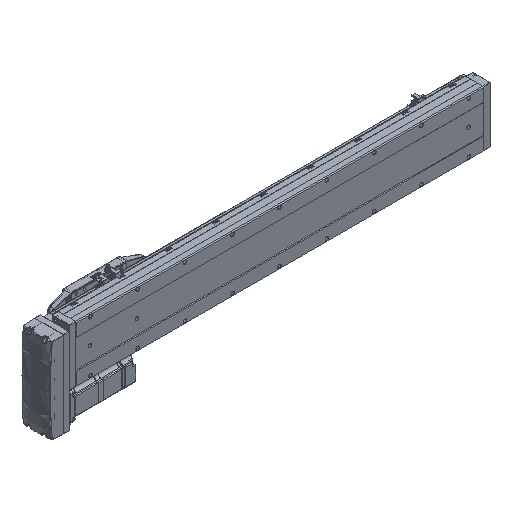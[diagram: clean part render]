
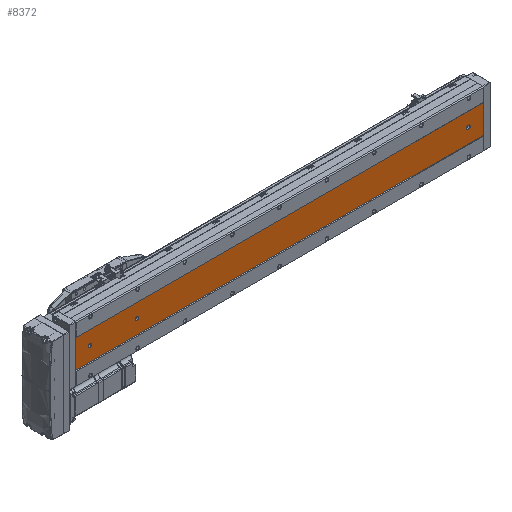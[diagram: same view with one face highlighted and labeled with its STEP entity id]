
A CAD part, isometric view. The second image highlights one B-rep face of the part: STEP entity #8372.
In plain terms, the highlighted planar face has unit normal (0, -1, 0).
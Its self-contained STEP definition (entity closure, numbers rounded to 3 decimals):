
#115 = VERTEX_POINT ( 'NONE', #3352 ) ;
#1864 = ORIENTED_EDGE ( 'NONE', *, *, #2897, .T. ) ;
#2052 = VERTEX_POINT ( 'NONE', #66730 ) ;
#2176 = CARTESIAN_POINT ( 'NONE',  ( -43.392, -52.848, 30. ) ) ;
#2392 = CARTESIAN_POINT ( 'NONE',  ( -39.892, -52.848, 734.5 ) ) ;
#2897 = EDGE_CURVE ( 'NONE', #50729, #80300, #77446, .T. ) ;
#3352 = CARTESIAN_POINT ( 'NONE',  ( -39.892, -52.848, 727.5 ) ) ;
#3392 = AXIS2_PLACEMENT_3D ( 'NONE', #23613, #61783, #35689 ) ;
#6381 = VECTOR ( 'NONE', #52096, 1000. ) ;
#6676 = VERTEX_POINT ( 'NONE', #67703 ) ;
#7706 = CARTESIAN_POINT ( 'NONE',  ( -9.892, -52.848, 861. ) ) ;
#8372 = ADVANCED_FACE ( 'NONE', ( #54781, #22651, #42717, #20639 ), #55326, .F. ) ;
#8427 = CARTESIAN_POINT ( 'NONE',  ( -69.892, -52.848, 861. ) ) ;
#8747 = DIRECTION ( 'NONE',  ( 0., 0., 1. ) ) ;
#8749 = AXIS2_PLACEMENT_3D ( 'NONE', #63333, #69791, #12218 ) ;
#9174 = CARTESIAN_POINT ( 'NONE',  ( -69.892, -52.848, 861. ) ) ;
#10465 = EDGE_CURVE ( 'NONE', #80300, #61262, #72022, .T. ) ;
#10953 = EDGE_CURVE ( 'NONE', #115, #18194, #73966, .T. ) ;
#11309 = EDGE_LOOP ( 'NONE', ( #48152, #29209, #73558, #1864 ) ) ;
#11581 = AXIS2_PLACEMENT_3D ( 'NONE', #58774, #65516, #20043 ) ;
#12025 = EDGE_CURVE ( 'NONE', #18194, #115, #28618, .T. ) ;
#12218 = DIRECTION ( 'NONE',  ( 0., 0., 1. ) ) ;
#12554 = DIRECTION ( 'NONE',  ( 0., 0., 1. ) ) ;
#12790 = CARTESIAN_POINT ( 'NONE',  ( -36.392, -52.848, 30. ) ) ;
#13496 = LINE ( 'NONE', #7706, #6381 ) ;
#13749 = LINE ( 'NONE', #9174, #83101 ) ;
#14338 = EDGE_CURVE ( 'NONE', #44827, #72568, #45352, .T. ) ;
#15579 = CARTESIAN_POINT ( 'NONE',  ( -36.392, -52.848, 861. ) ) ;
#16069 = DIRECTION ( 'NONE',  ( 0., 0., 1. ) ) ;
#16683 = DIRECTION ( 'NONE',  ( 0., 0., -1. ) ) ;
#17342 = CARTESIAN_POINT ( 'NONE',  ( -39.892, -52.848, 831. ) ) ;
#17403 = CIRCLE ( 'NONE', #82727, 3.5 ) ;
#17656 = VERTEX_POINT ( 'NONE', #37391 ) ;
#18027 = EDGE_LOOP ( 'NONE', ( #70568, #48124 ) ) ;
#18050 = VECTOR ( 'NONE', #16683, 1000. ) ;
#18194 = VERTEX_POINT ( 'NONE', #2392 ) ;
#20043 = DIRECTION ( 'NONE',  ( 0., 0., 1. ) ) ;
#20639 = FACE_OUTER_BOUND ( 'NONE', #11309, .T. ) ;
#21649 = ORIENTED_EDGE ( 'NONE', *, *, #52538, .T. ) ;
#22266 = EDGE_LOOP ( 'NONE', ( #32625, #56243 ) ) ;
#22651 = FACE_BOUND ( 'NONE', #18027, .T. ) ;
#23190 = ORIENTED_EDGE ( 'NONE', *, *, #33317, .T. ) ;
#23613 = CARTESIAN_POINT ( 'NONE',  ( -69.892, -52.848, 861. ) ) ;
#23825 = CARTESIAN_POINT ( 'NONE',  ( -39.892, -52.848, 32. ) ) ;
#24090 = EDGE_CURVE ( 'NONE', #50606, #61262, #13496, .T. ) ;
#24100 = DIRECTION ( 'NONE',  ( 0., 0., 1. ) ) ;
#24921 = CARTESIAN_POINT ( 'NONE',  ( -39.892, -52.848, 731. ) ) ;
#25736 = CARTESIAN_POINT ( 'NONE',  ( -9.892, -52.848, 0. ) ) ;
#28618 = CIRCLE ( 'NONE', #59648, 3.5 ) ;
#29209 = ORIENTED_EDGE ( 'NONE', *, *, #24090, .F. ) ;
#30048 = AXIS2_PLACEMENT_3D ( 'NONE', #60141, #66601, #8747 ) ;
#31021 = LINE ( 'NONE', #41606, #33027 ) ;
#32625 = ORIENTED_EDGE ( 'NONE', *, *, #60583, .T. ) ;
#33027 = VECTOR ( 'NONE', #73348, 1000. ) ;
#33317 = EDGE_CURVE ( 'NONE', #72568, #6676, #31021, .T. ) ;
#34563 = CARTESIAN_POINT ( 'NONE',  ( -39.892, -52.848, 26.5 ) ) ;
#35689 = DIRECTION ( 'NONE',  ( 0., 0., 1. ) ) ;
#37391 = CARTESIAN_POINT ( 'NONE',  ( -39.892, -52.848, 827.5 ) ) ;
#38107 = DIRECTION ( 'NONE',  ( 0., 1., 0. ) ) ;
#41212 = AXIS2_PLACEMENT_3D ( 'NONE', #67768, #54520, #16069 ) ;
#41606 = CARTESIAN_POINT ( 'NONE',  ( -43.392, -52.848, 861. ) ) ;
#41981 = DIRECTION ( 'NONE',  ( 1., 0., 0. ) ) ;
#42133 = EDGE_CURVE ( 'NONE', #50729, #50606, #13749, .T. ) ;
#42346 = AXIS2_PLACEMENT_3D ( 'NONE', #17342, #62278, #24100 ) ;
#42717 = FACE_BOUND ( 'NONE', #22266, .T. ) ;
#44504 = ORIENTED_EDGE ( 'NONE', *, *, #14338, .T. ) ;
#44827 = VERTEX_POINT ( 'NONE', #34563 ) ;
#45352 = CIRCLE ( 'NONE', #8749, 3.5 ) ;
#47290 = CARTESIAN_POINT ( 'NONE',  ( -69.892, -52.848, 861. ) ) ;
#48124 = ORIENTED_EDGE ( 'NONE', *, *, #12025, .T. ) ;
#48152 = ORIENTED_EDGE ( 'NONE', *, *, #10465, .T. ) ;
#50606 = VERTEX_POINT ( 'NONE', #65157 ) ;
#50729 = VERTEX_POINT ( 'NONE', #8427 ) ;
#52096 = DIRECTION ( 'NONE',  ( 0., 0., -1. ) ) ;
#52538 = EDGE_CURVE ( 'NONE', #6676, #2052, #17403, .T. ) ;
#53264 = DIRECTION ( 'NONE',  ( 1., 0., 0. ) ) ;
#54520 = DIRECTION ( 'NONE',  ( 0., 1., 0. ) ) ;
#54781 = FACE_BOUND ( 'NONE', #69920, .T. ) ;
#55326 = PLANE ( 'NONE',  #3392 ) ;
#55590 = CARTESIAN_POINT ( 'NONE',  ( -69.892, -52.848, 0. ) ) ;
#56099 = DIRECTION ( 'NONE',  ( 0., 0., 1. ) ) ;
#56237 = LINE ( 'NONE', #15579, #18050 ) ;
#56243 = ORIENTED_EDGE ( 'NONE', *, *, #78693, .T. ) ;
#56276 = VECTOR ( 'NONE', #79646, 1000. ) ;
#58774 = CARTESIAN_POINT ( 'NONE',  ( -39.892, -52.848, 831. ) ) ;
#59648 = AXIS2_PLACEMENT_3D ( 'NONE', #24921, #38107, #12554 ) ;
#59935 = VECTOR ( 'NONE', #41981, 1000. ) ;
#60141 = CARTESIAN_POINT ( 'NONE',  ( -39.892, -52.848, 731. ) ) ;
#60583 = EDGE_CURVE ( 'NONE', #17656, #62666, #71550, .T. ) ;
#61262 = VERTEX_POINT ( 'NONE', #25736 ) ;
#61533 = EDGE_CURVE ( 'NONE', #2052, #68227, #56237, .T. ) ;
#61783 = DIRECTION ( 'NONE',  ( 0., 1., 0. ) ) ;
#62278 = DIRECTION ( 'NONE',  ( 0., 1., 0. ) ) ;
#62535 = CIRCLE ( 'NONE', #41212, 3.5 ) ;
#62666 = VERTEX_POINT ( 'NONE', #77731 ) ;
#63333 = CARTESIAN_POINT ( 'NONE',  ( -39.892, -52.848, 30. ) ) ;
#65157 = CARTESIAN_POINT ( 'NONE',  ( -9.892, -52.848, 861. ) ) ;
#65516 = DIRECTION ( 'NONE',  ( 0., 1., 0. ) ) ;
#65870 = ORIENTED_EDGE ( 'NONE', *, *, #61533, .T. ) ;
#66601 = DIRECTION ( 'NONE',  ( 0., 1., 0. ) ) ;
#66730 = CARTESIAN_POINT ( 'NONE',  ( -36.392, -52.848, 32. ) ) ;
#67703 = CARTESIAN_POINT ( 'NONE',  ( -43.392, -52.848, 32. ) ) ;
#67766 = EDGE_CURVE ( 'NONE', #68227, #44827, #62535, .T. ) ;
#67768 = CARTESIAN_POINT ( 'NONE',  ( -39.892, -52.848, 30. ) ) ;
#68176 = CIRCLE ( 'NONE', #11581, 3.5 ) ;
#68227 = VERTEX_POINT ( 'NONE', #12790 ) ;
#68770 = DIRECTION ( 'NONE',  ( 0., 1., 0. ) ) ;
#69791 = DIRECTION ( 'NONE',  ( 0., 1., 0. ) ) ;
#69920 = EDGE_LOOP ( 'NONE', ( #65870, #73365, #44504, #23190, #21649 ) ) ;
#70568 = ORIENTED_EDGE ( 'NONE', *, *, #10953, .T. ) ;
#71550 = CIRCLE ( 'NONE', #42346, 3.5 ) ;
#72022 = LINE ( 'NONE', #74567, #59935 ) ;
#72568 = VERTEX_POINT ( 'NONE', #2176 ) ;
#73348 = DIRECTION ( 'NONE',  ( 0., 0., 1. ) ) ;
#73365 = ORIENTED_EDGE ( 'NONE', *, *, #67766, .T. ) ;
#73558 = ORIENTED_EDGE ( 'NONE', *, *, #42133, .F. ) ;
#73966 = CIRCLE ( 'NONE', #30048, 3.5 ) ;
#74567 = CARTESIAN_POINT ( 'NONE',  ( -69.892, -52.848, 0. ) ) ;
#77446 = LINE ( 'NONE', #47290, #56276 ) ;
#77731 = CARTESIAN_POINT ( 'NONE',  ( -39.892, -52.848, 834.5 ) ) ;
#78693 = EDGE_CURVE ( 'NONE', #62666, #17656, #68176, .T. ) ;
#79646 = DIRECTION ( 'NONE',  ( 0., 0., -1. ) ) ;
#80300 = VERTEX_POINT ( 'NONE', #55590 ) ;
#82727 = AXIS2_PLACEMENT_3D ( 'NONE', #23825, #68770, #56099 ) ;
#83101 = VECTOR ( 'NONE', #53264, 1000. ) ;
